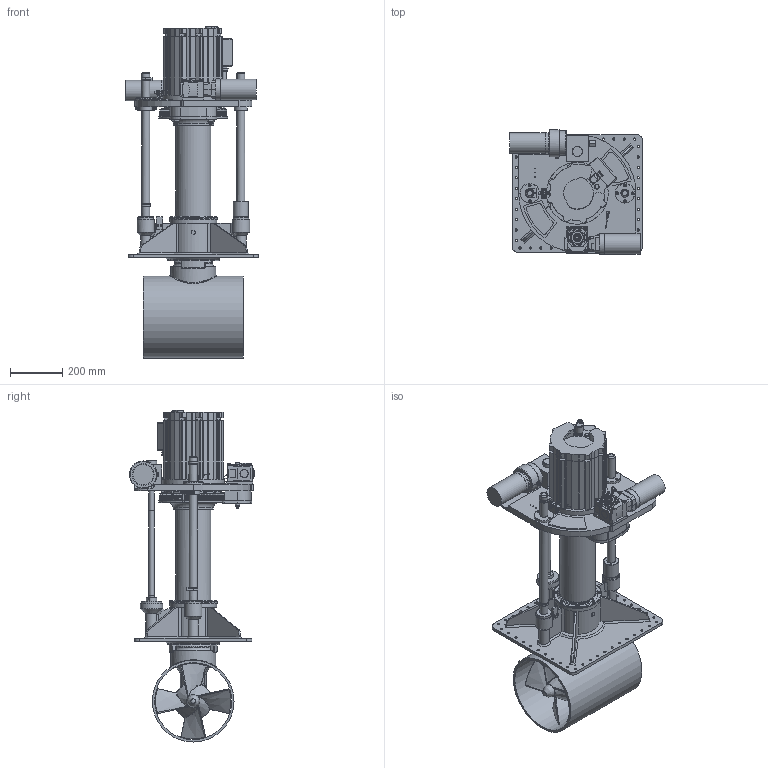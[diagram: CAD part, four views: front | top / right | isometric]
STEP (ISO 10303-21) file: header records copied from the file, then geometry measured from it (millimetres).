
FILE_DESCRIPTION(/* description */ (''),/* implementation_level */ '2;1');
FILE_NAME(/* name */ 'Q:\THRUSTERS\THRUSTER SALES & SUPPORT DOCS\THRUSTER Sales\E-V-R\E-0300-V-R\E-0300-V-R-RETRACTED.stp',/* time_stamp */ '2022-04-06T16:03:21+01:00',/* author */ ('Ben'),/* organization */ (''),/* preprocessor_version */ 'ST-DEVELOPER v18.1',/* originating_system */ 'Autodesk Inventor 2022',/* authorisation */ '');
FILE_SCHEMA (('AUTOMOTIVE_DESIGN { 1 0 10303 214 3 1 1 }'));
Length unit declared in the file: millimetre
Products named in the file (1): E-0300-V-R_Simplify_1
Bounding box: 510.2 x 479.57 x 1273.88 mm (x, y, z)
Volume: 44162909.7 mm3; surface area: 3572067.5 mm2
Topology: 4 solids, 4 shells, 4039 faces, 10747 edges, 6905 vertices
Faces by surface type: plane 1956, cylinder 1478, cone 267, torus 183, bspline 102, sphere 53
Full cylindrical faces by diameter (mm): 1.15 x7, 1.35 x8, 1.8 x6, 3.7 x3, 4 x2, 5 x46, 5.65 x2, 6 x4, 6.4 x6, 6.8 x1, 6.917 x2, 7.4 x1, 8 x8, 8.5 x78, 9.398 x3, 10 x15, 10.7 x1, 11.938 x3, 12 x1, 13 x2, 14.097 x3, 14.986 x3, 15 x1, 17 x2, 20 x4, 21 x3, 23 x2, 24 x1, 25 x5, 27.94 x3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
Entity records: 139423 total; most frequent: CARTESIAN_POINT 34021, ORIENTED_EDGE 21408, DIRECTION 21371, EDGE_CURVE 10704, AXIS2_PLACEMENT_3D 7843, VERTEX_POINT 6905, LINE 5685, VECTOR 5685
